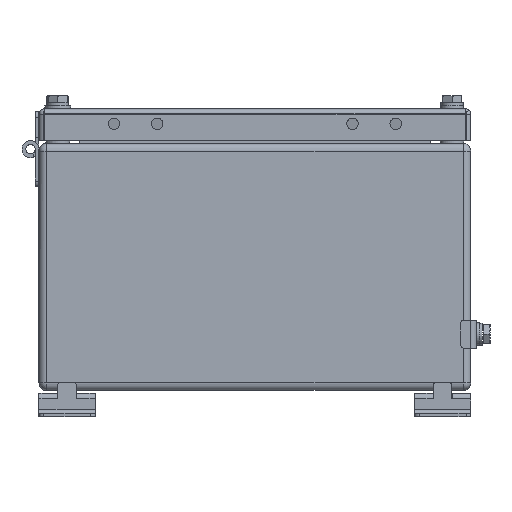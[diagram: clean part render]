
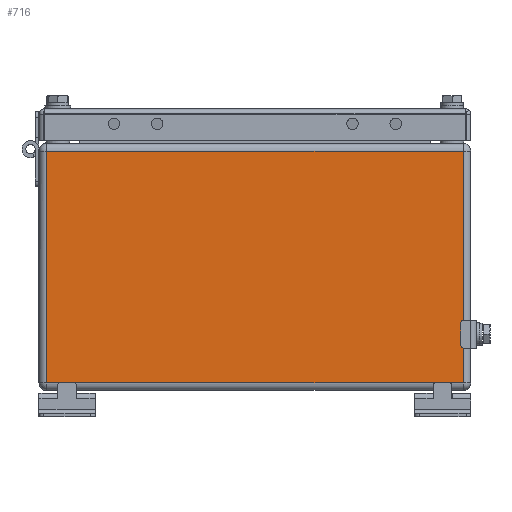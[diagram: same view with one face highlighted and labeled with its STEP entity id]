
A CAD part, front view. The second image highlights one B-rep face of the part: STEP entity #716.
In plain terms, the highlighted planar face has unit normal (0, -1, 0).
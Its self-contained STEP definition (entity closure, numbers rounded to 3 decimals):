
#180=CARTESIAN_POINT('',(111.,-200.0,127.5));
#181=VERTEX_POINT('',#180);
#274=CARTESIAN_POINT('',(111.,-200.0,4.0));
#275=VERTEX_POINT('',#274);
#330=CARTESIAN_POINT('',(111.,-200.0,127.5));
#331=DIRECTION('',(0.0,0.0,-1.0));
#332=VECTOR('',#331,123.5);
#333=LINE('',#330,#332);
#334=EDGE_CURVE('',#181,#275,#333,.T.);
#362=CARTESIAN_POINT('',(-111.,-200.0,127.5));
#363=VERTEX_POINT('',#362);
#397=CARTESIAN_POINT('',(-111.,-200.0,4.0));
#398=VERTEX_POINT('',#397);
#429=CARTESIAN_POINT('',(111.,-200.0,4.0));
#430=DIRECTION('',(-1.0,0.0,0.0));
#431=VECTOR('',#430,222.);
#432=LINE('',#429,#431);
#433=EDGE_CURVE('',#275,#398,#432,.T.);
#451=CARTESIAN_POINT('',(-111.,-200.0,4.0));
#452=DIRECTION('',(0.0,0.0,1.0));
#453=VECTOR('',#452,123.5);
#454=LINE('',#451,#453);
#455=EDGE_CURVE('',#398,#363,#454,.T.);
#488=CARTESIAN_POINT('',(-111.,-200.0,127.5));
#489=DIRECTION('',(1.0,0.0,0.0));
#490=VECTOR('',#489,222.);
#491=LINE('',#488,#490);
#492=EDGE_CURVE('',#363,#181,#491,.T.);
#705=CARTESIAN_POINT('',(115.,-200.0,0.0));
#706=DIRECTION('',(0.0,-1.0,0.0));
#707=DIRECTION('',(0.0,0.0,-1.0));
#708=AXIS2_PLACEMENT_3D('',#705,#706,#707);
#709=PLANE('',#708);
#710=ORIENTED_EDGE('',*,*,#334,.F.);
#711=ORIENTED_EDGE('',*,*,#492,.F.);
#712=ORIENTED_EDGE('',*,*,#455,.F.);
#713=ORIENTED_EDGE('',*,*,#433,.F.);
#714=EDGE_LOOP('',(#710,#711,#712,#713));
#715=FACE_OUTER_BOUND('',#714,.T.);
#716=ADVANCED_FACE('',(#715),#709,.T.);
